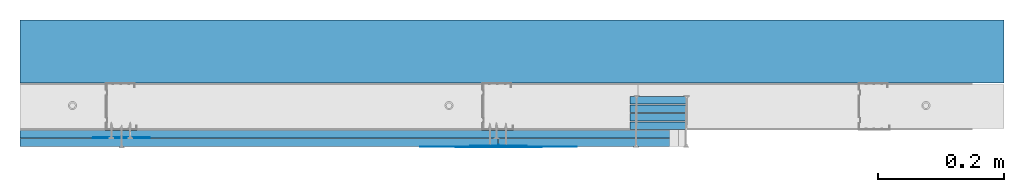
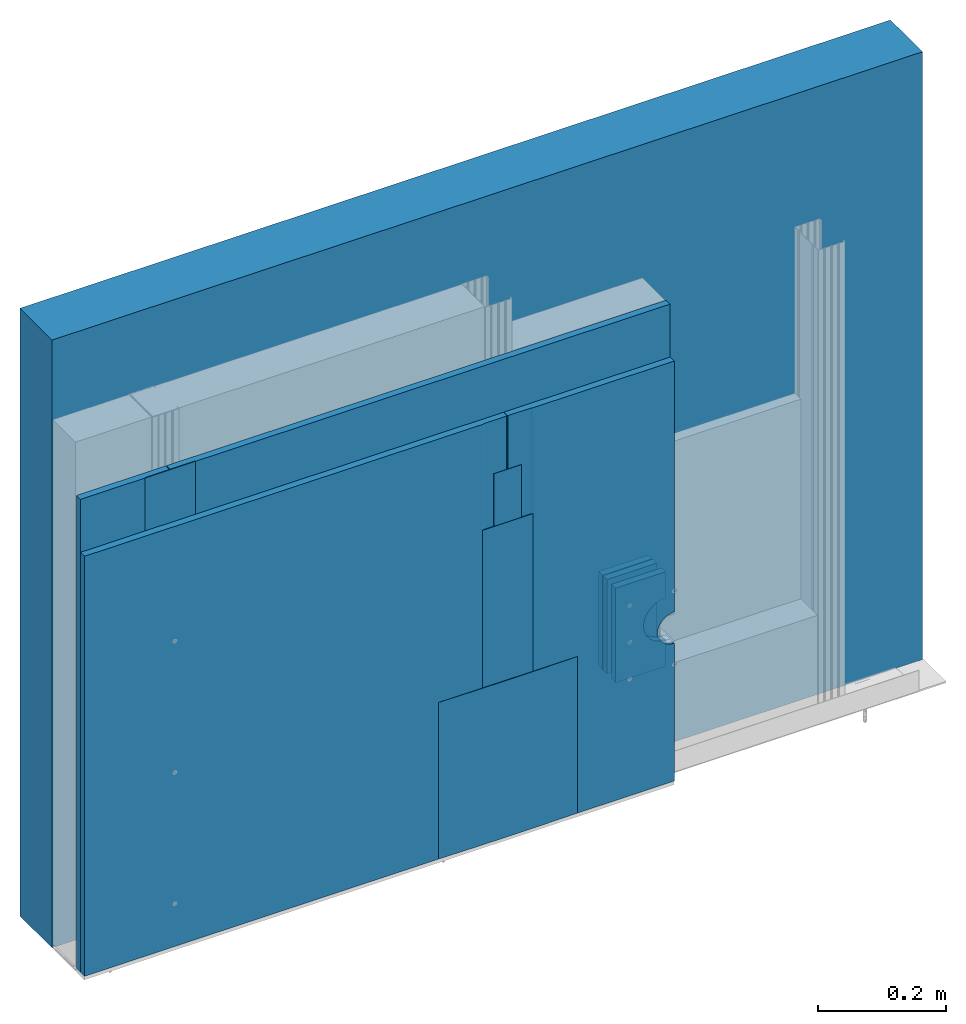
# One storey, part 3 of 32: 13 walls.
"""IFC2X3 building model written with IfcOpenShell, lengths in millimetres."""

from ifc_helpers import new_model, entity, si_unit, converted_unit, direction, frame, origin, origin_with_axes, place, context, project, spatial, faceted_brep, element, save


model = new_model("IFC2X3")

# Units and contexts
model_context = context("Model", 3, precision=1e-05, world=origin(), true_north=direction((0.0, 1.0, 0.0)))
ifc_project = project(units=[si_unit("LENGTHUNIT", "METRE", prefix="MILLI"), si_unit("AREAUNIT", "SQUARE_METRE"), si_unit("VOLUMEUNIT", "CUBIC_METRE"), converted_unit("PLANEANGLEUNIT", "DEGREE", entity("IfcPlaneAngleMeasure", 0.01745), si_unit("PLANEANGLEUNIT", "RADIAN"), dimensions=[0, 0, 0, 0, 0, 0, 0]), si_unit("SOLIDANGLEUNIT", "STERADIAN"), si_unit("MASSUNIT", "GRAM"), si_unit("TIMEUNIT", "SECOND"), si_unit("THERMODYNAMICTEMPERATUREUNIT", "DEGREE_CELSIUS"), si_unit("LUMINOUSINTENSITYUNIT", "LUMEN")], contexts=[model_context])

# Site, building, storey
site_placement = place(None, origin_with_axes())
site = spatial("IfcSite", under=ifc_project, at=site_placement, Name="Default Site", CompositionType="ELEMENT")
building_placement = place(site_placement, origin_with_axes())
building = spatial("IfcBuilding", under=site, at=building_placement, Name="Default Building", CompositionType="ELEMENT")
storey_placement = place(building_placement, origin_with_axes())
storey = spatial("IfcBuildingStorey", under=building, at=storey_placement, Name="Default Building Storey", CompositionType="ELEMENT", Elevation=0.0)

# Walls
wall_1_placement = place(storey_placement, frame((2150.097415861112, 5311.348013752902, 7.548421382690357), z_axis=(0.0, 0.0, 1.0), x_axis=(-1.0, 4.718447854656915e-16, 0.0)))
element("IfcWall", 1, at=wall_1_placement, inside=storey, Name="Taśma spoinowa RIGIPS", context=model_context, shape_type="Brep", body=[
    faceted_brep([(-712.4592163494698, 3389.356721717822, 700.7999999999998), (-712.4592163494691, 3389.856721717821, 700.7999999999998), (-762.4592163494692, 3389.856721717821, 700.7999999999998), (-762.45921634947, 3389.35672171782, 700.7999999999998), (-712.4592163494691, 3389.856721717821, 2.449996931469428), (-712.4592163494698, 3389.35672171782, 2.449996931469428), (-762.45921634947, 3389.35672171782, 2.449996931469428), (-762.4592163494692, 3389.856721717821, 2.449996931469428)], [[[0, 1, 2, 3]], [[4, 5, 6, 7]], [[5, 0, 3, 6]], [[6, 3, 2, 7]], [[7, 2, 1, 4]], [[4, 1, 0, 5]]]),
])
wall_2_placement = place(storey_placement, frame((2150.097415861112, 5311.348013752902, 7.548421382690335), z_axis=(0.0, 0.0, 1.0), x_axis=(-1.0, 4.718447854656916e-16, 0.0)))
element("IfcWall", 2, at=wall_2_placement, inside=storey, Name="Dedykowana masa szpachlowa Rigips - konstrukcyjna", context=model_context, shape_type="Brep", body=[
    faceted_brep([(-737.4838396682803, 3387.6695906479, 600.7999999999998), (-737.4592163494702, 3387.356721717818, 600.7999999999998), (-737.434593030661, 3387.6695906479, 600.7999999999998), (-737.3613293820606, 3387.974755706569, 600.7999999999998), (-737.2412293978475, 3388.264702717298, 600.7999999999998), (-737.07725033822, 3388.532292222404, 600.7999999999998), (-736.8734299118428, 3388.770935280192, 600.7999999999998), (-736.6347868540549, 3388.974755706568, 600.7999999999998), (-736.3671973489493, 3389.138734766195, 600.7999999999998), (-736.0772503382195, 3389.258834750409, 600.7999999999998), (-735.7720852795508, 3389.332098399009, 600.7999999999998), (-735.45921634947, 3389.356721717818, 600.7999999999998), (-692.4592163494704, 3389.356721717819, 600.7999999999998), (-691.4592163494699, 3390.556721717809, 600.7999999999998), (-782.4592163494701, 3390.556721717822, 600.7999999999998), (-782.4592163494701, 3389.356721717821, 600.7999999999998), (-739.4592163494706, 3389.356721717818, 600.7999999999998), (-739.1463474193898, 3389.332098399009, 600.7999999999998), (-738.8411823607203, 3389.258834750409, 600.7999999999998), (-738.5512353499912, 3389.138734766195, 600.7999999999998), (-738.2836458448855, 3388.974755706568, 600.7999999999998), (-738.0450027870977, 3388.770935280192, 600.7999999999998), (-737.8411823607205, 3388.532292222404, 600.7999999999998), (-737.6772033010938, 3388.264702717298, 600.7999999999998), (-737.55710331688, 3387.974755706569, 600.7999999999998), (-691.4592163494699, 3390.556721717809, 2.449996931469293), (-692.4592163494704, 3389.356721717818, 2.449996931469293), (-735.45921634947, 3389.356721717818, 2.449996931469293), (-735.7720852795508, 3389.332098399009, 2.449996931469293), (-736.0772503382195, 3389.258834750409, 2.449996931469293), (-736.3671973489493, 3389.138734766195, 2.449996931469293), (-736.6347868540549, 3388.974755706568, 2.449996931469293), (-736.8734299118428, 3388.770935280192, 2.449996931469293), (-737.07725033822, 3388.532292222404, 2.449996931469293), (-737.2412293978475, 3388.264702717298, 2.449996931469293), (-737.3613293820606, 3387.974755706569, 2.449996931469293), (-737.434593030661, 3387.6695906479, 2.449996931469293), (-737.4592163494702, 3387.356721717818, 2.449996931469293), (-737.4838396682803, 3387.6695906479, 2.449996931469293), (-737.55710331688, 3387.974755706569, 2.449996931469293), (-737.6772033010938, 3388.264702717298, 2.449996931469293), (-737.8411823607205, 3388.532292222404, 2.449996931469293), (-738.0450027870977, 3388.770935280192, 2.449996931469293), (-738.2836458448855, 3388.974755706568, 2.449996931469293), (-738.5512353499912, 3389.138734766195, 2.449996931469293), (-738.8411823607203, 3389.258834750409, 2.449996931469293), (-739.1463474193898, 3389.332098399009, 2.449996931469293), (-739.4592163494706, 3389.356721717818, 2.449996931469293), (-782.4592163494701, 3389.356721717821, 2.449996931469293), (-782.4592163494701, 3390.556721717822, 2.449996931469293)], [[[0, 1, 2, 3, 4, 5, 6, 7, 8, 9, 10, 11, 12, 13, 14, 15, 16, 17, 18, 19, 20, 21, 22, 23, 24]], [[25, 26, 27, 28, 29, 30, 31, 32, 33, 34, 35, 36, 37, 38, 39, 40, 41, 42, 43, 44, 45, 46, 47, 48, 49]], [[26, 12, 11, 27]], [[10, 9, 29, 28]], [[28, 27, 11, 10]], [[8, 30, 29, 9]], [[7, 6, 32, 31]], [[31, 30, 8, 7]], [[5, 4, 34, 33]], [[33, 32, 6, 5]], [[3, 35, 34, 4]], [[2, 1, 37, 36]], [[36, 35, 3, 2]], [[0, 24, 39, 38]], [[38, 37, 1, 0]], [[23, 40, 39, 24]], [[22, 21, 42, 41]], [[41, 40, 23, 22]], [[20, 19, 44, 43]], [[43, 42, 21, 20]], [[18, 45, 44, 19]], [[17, 16, 47, 46]], [[46, 45, 18, 17]], [[47, 16, 15, 48]], [[48, 15, 14, 49]], [[49, 14, 13, 25]], [[25, 13, 12, 26]]]),
])
wall_3_placement = place(storey_placement, frame((2887.556632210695, 1933.291292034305, 1059.999999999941), z_axis=(0.0, 0.0, 1.0), x_axis=(1.0, 6.389333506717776e-13, 0.0)))
element("IfcWall", 3, at=wall_3_placement, inside=storey, Name="Płyta gipsowo-kartonowa RIGIPS PRO (4PRO™)", context=model_context, shape_type="Brep", body=[
    faceted_brep([(299.5674017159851, 1.631519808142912e-10, -727.6029311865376), (299.5674017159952, -12.4999999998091, -727.6029311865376), (299.5674017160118, -12.49999999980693, -249.9999999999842), (299.5674017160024, 1.653177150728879e-10, -249.9999999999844), (299.5674017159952, -12.4999999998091, -787.6029311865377), (291.8028303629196, -12.49999999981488, -786.5807059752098), (291.8028303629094, 1.573766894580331e-10, -786.5807059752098), (299.5674017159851, 1.631519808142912e-10, -787.6029311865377), (284.5674017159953, -12.49999999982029, -783.5836933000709), (284.5674017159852, 1.519623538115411e-10, -783.5836933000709), (278.3541982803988, -12.49999999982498, -778.8161346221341), (278.3541982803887, 1.472699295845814e-10, -778.8161346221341), (273.5866396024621, -12.49999999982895, -772.6029311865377), (273.586639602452, 1.43299416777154e-10, -772.6029311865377), (270.5896269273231, -12.49999999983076, -765.3675025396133), (270.589626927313, 1.414946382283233e-10, -765.3675025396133), (269.5674017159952, -12.49999999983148, -757.6029311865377), (269.5674017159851, 1.40772726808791e-10, -757.6029311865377), (270.5896269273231, -12.49999999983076, -749.838359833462), (270.589626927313, 1.414946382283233e-10, -749.838359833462), (273.5866396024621, -12.49999999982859, -742.6029311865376), (273.586639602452, 1.436603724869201e-10, -742.6029311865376), (278.3541982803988, -12.49999999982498, -736.3897277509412), (278.3541982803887, 1.472699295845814e-10, -736.3897277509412), (284.567401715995, -12.49999999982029, -731.6221690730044), (284.5674017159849, 1.519623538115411e-10, -731.6221690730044), (291.8028303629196, -12.49999999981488, -728.6251563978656), (291.8028303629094, 1.573766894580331e-10, -728.6251563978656), (299.5674017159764, 1.620691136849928e-10, -1050.001581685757), (299.5674017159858, -12.49999999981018, -1050.001581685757), (44.99999999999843, -12.50000000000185, -249.9999999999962), (40.99999999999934, -11.50000000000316, -249.9999999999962), (0.9999999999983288, -11.50000000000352, -249.9999999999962), (0.7411809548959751, -11.46592582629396, -249.9999999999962), (0.4999999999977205, -11.3660254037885, -249.9999999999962), (0.29289321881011, -11.20710678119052, -249.9999999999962), (0.1339745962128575, -11.00000000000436, -249.9999999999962), (0.03407417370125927, -10.7588190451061, -249.9999999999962), (-2.887645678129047e-12, -10.50000000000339, -249.9999999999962), (0.0, 0.0, -249.9999999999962), (44.99999999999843, -12.50000000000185, -1050.001581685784), (40.99999999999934, -11.50000000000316, -1050.001581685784), (0.9999999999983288, -11.50000000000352, -1050.001581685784), (0.7411809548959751, -11.46592582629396, -1050.001581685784), (0.4999999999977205, -11.3660254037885, -1050.001581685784), (0.29289321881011, -11.20710678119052, -1050.001581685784), (0.1339745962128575, -11.00000000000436, -1050.001581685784), (0.03407417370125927, -10.7588190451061, -1050.001581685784), (-2.887645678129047e-12, -10.50000000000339, -1050.001581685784), (0.0, 0.0, -1050.001581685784)], [[[0, 1, 2, 3]], [[4, 5, 6, 7]], [[5, 8, 9, 6]], [[8, 10, 11, 9]], [[10, 12, 13, 11]], [[12, 14, 15, 13]], [[14, 16, 17, 15]], [[16, 18, 19, 17]], [[18, 20, 21, 19]], [[20, 22, 23, 21]], [[22, 24, 25, 23]], [[24, 26, 27, 25]], [[26, 1, 0, 27]], [[7, 28, 29, 4]], [[2, 30, 31, 32, 33, 34, 35, 36, 37, 38, 39, 3]], [[4, 29, 40, 30, 2, 1, 26, 24, 22, 20, 18, 16, 14, 12, 10, 8, 5]], [[31, 30, 40, 41]], [[32, 31, 41, 42]], [[33, 32, 42, 43]], [[34, 33, 43, 44]], [[35, 34, 44, 45]], [[36, 35, 45, 46]], [[37, 36, 46, 47]], [[38, 37, 47, 48]], [[39, 38, 48, 49]], [[0, 3, 39, 49, 28, 7, 6, 9, 11, 13, 15, 17, 19, 21, 23, 25, 27]], [[40, 29, 28, 49, 48, 47, 46, 45, 44, 43, 42, 41]]]),
])
wall_4_placement = place(storey_placement, frame((3487.124033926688, 1946.791292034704, 1159.99999999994), z_axis=(0.0, 0.0, 1.0), x_axis=(-1.0, -6.389333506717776e-13, 0.0)))
element("IfcWall", 4, at=wall_4_placement, inside=storey, Name="Płyta gipsowo-kartonowa RIGIPS PRO (4PRO™)", context=model_context, shape_type="Brep", body=[
    faceted_brep([(299.9999999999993, 12.50000000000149, -827.859585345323), (300.0000000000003, 3.609557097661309e-13, -827.859585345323), (299.9999999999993, 0.0, -249.9999999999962), (299.9999999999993, 12.50000000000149, -249.9999999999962), (303.9157857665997, 12.50000000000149, -887.3462770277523), (299.9999999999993, 12.50000000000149, -887.3462770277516), (300.0000000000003, 3.609557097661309e-13, -887.3462770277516), (303.9157857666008, 3.609557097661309e-13, -887.3462770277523), (311.4805029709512, 12.50000000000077, -885.3193171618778), (311.4805029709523, -3.609557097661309e-13, -885.3193171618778), (318.2628428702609, 12.50000000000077, -881.4035313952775), (318.262842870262, -3.609557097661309e-13, -881.4035313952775), (323.8006002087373, 12.50000000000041, -875.865774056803), (323.8006002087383, -7.219114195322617e-13, -875.865774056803), (327.7163859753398, 12.50000000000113, -869.0834341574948), (327.7163859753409, 0.0, -869.0834341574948), (329.7433458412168, 12.50000000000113, -861.518716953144), (329.7433458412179, 0.0, -861.518716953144), (329.7433458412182, 12.50000000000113, -853.6871454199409), (329.7433458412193, 0.0, -853.6871454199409), (327.7163859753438, 12.50000000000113, -846.1224282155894), (327.7163859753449, 0.0, -846.1224282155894), (323.8006002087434, 12.50000000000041, -839.3400883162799), (323.8006002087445, -7.219114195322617e-13, -839.3400883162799), (318.2628428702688, 12.50000000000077, -833.8023309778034), (318.2628428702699, -3.609557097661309e-13, -833.8023309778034), (311.4805029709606, 12.50000000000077, -829.8865452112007), (311.4805029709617, -3.609557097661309e-13, -829.8865452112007), (303.9157857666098, 12.50000000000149, -827.8595853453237), (303.9157857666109, 3.609557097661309e-13, -827.8595853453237), (299.9999999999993, 0.0, -1150.001581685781), (299.9999999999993, 12.50000000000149, -1150.001581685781), (1199.866025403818, 10.99999999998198, -249.9999999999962), (1199.965925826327, 10.75881904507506, -249.9999999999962), (1199.965925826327, 10.75881904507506, -1150.001581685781), (1199.866025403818, 10.99999999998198, -1150.001581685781), (1199.707106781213, 11.20710678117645, -249.9999999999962), (1199.707106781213, 11.20710678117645, -1150.001581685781), (1199.50000000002, 11.36602540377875, -249.9999999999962), (1199.50000000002, 11.36602540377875, -1150.001581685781), (1199.258819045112, 11.46592582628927, -249.9999999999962), (1199.258819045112, 11.46592582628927, -1150.001581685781), (1199.0, 11.49999999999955, -249.9999999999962), (1199.0, 11.49999999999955, -1150.001581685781), (1158.999999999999, 11.50000000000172, -249.9999999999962), (1158.999999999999, 11.50000000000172, -1150.001581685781), (1155.000000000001, 12.49999999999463, -249.9999999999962), (1155.000000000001, 12.49999999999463, -1150.001581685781), (1200.0, -1.082867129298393e-12, -1150.001581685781), (1200.0, -1.082867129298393e-12, -249.9999999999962), (1200.000000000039, 10.49999999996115, -249.9999999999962), (1200.000000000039, 10.49999999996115, -1150.001581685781)], [[[0, 1, 2, 3]], [[4, 5, 6, 7]], [[8, 4, 7, 9]], [[10, 8, 9, 11]], [[12, 10, 11, 13]], [[14, 12, 13, 15]], [[16, 14, 15, 17]], [[18, 16, 17, 19]], [[20, 18, 19, 21]], [[22, 20, 21, 23]], [[24, 22, 23, 25]], [[26, 24, 25, 27]], [[28, 26, 27, 29]], [[0, 28, 29, 1]], [[30, 6, 5, 31]], [[32, 33, 34, 35]], [[36, 32, 35, 37]], [[38, 36, 37, 39]], [[40, 38, 39, 41]], [[42, 40, 41, 43]], [[44, 42, 43, 45]], [[46, 44, 45, 47]], [[31, 5, 4, 8, 10, 12, 14, 16, 18, 20, 22, 24, 26, 28, 0, 3, 46, 47]], [[2, 1, 29, 27, 25, 23, 21, 19, 17, 15, 13, 11, 9, 7, 6, 30, 48, 49]], [[50, 49, 48, 51]], [[33, 50, 51, 34]], [[34, 51, 48, 30, 31, 47, 45, 43, 41, 39, 37, 35]], [[46, 3, 2, 49, 50, 33, 32, 36, 38, 40, 42, 44]]]),
])
wall_5_placement = place(storey_placement, frame((2150.097415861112, 5311.348013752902, 7.548421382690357), z_axis=(0.0, 0.0, 1.0), x_axis=(-1.0, 4.718447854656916e-16, 0.0)))
element("IfcWall", 5, at=wall_5_placement, inside=storey, Name="Dedykowana masa szpachlowa Rigips - wykończeniowa", context=model_context, shape_type="Brep", body=[
    faceted_brep([(-612.459216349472, 3390.556721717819, 2.449996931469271), (-862.459216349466, 3390.556721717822, 2.449996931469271), (-812.4612643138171, 3391.196716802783, 2.449996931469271), (-762.4602403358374, 3391.516720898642, 2.449996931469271), (-712.458192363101, 3391.516720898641, 2.449996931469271), (-662.4571683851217, 3391.19671680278, 2.449996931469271), (-762.4602403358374, 3391.516720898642, 300.8000000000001), (-812.4612643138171, 3391.196716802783, 300.8000000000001), (-862.459216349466, 3390.556721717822, 300.8000000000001), (-612.459216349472, 3390.556721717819, 300.8000000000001), (-662.4571683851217, 3391.19671680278, 300.8000000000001), (-712.458192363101, 3391.516720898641, 300.8000000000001)], [[[0, 1, 2, 3, 4, 5]], [[6, 7, 8, 9, 10, 11]], [[9, 0, 5, 10]], [[10, 5, 4, 11]], [[11, 4, 3, 6]], [[6, 3, 2, 7]], [[1, 8, 7, 2]], [[0, 9, 8, 1]]]),
])
wall_6_placement = place(storey_placement, frame((1549.664817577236, 5324.848013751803, 259.1999999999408), z_axis=(0.0, 0.0, 1.0), x_axis=(-1.0, 4.718447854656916e-16, 0.0)))
element("IfcWall", 6, at=wall_6_placement, inside=storey, Name="Dedykowana masa szpachlowa Rigips - konstrukcyjna", context=model_context, shape_type="Brep", body=[
    faceted_brep([(-737.4838396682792, 3387.669590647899, 650.800000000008), (-737.4592163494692, 3387.356721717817, 650.800000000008), (-737.4345930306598, 3387.669590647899, 650.800000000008), (-737.3613293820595, 3387.974755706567, 650.800000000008), (-737.2412293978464, 3388.264702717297, 650.800000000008), (-737.077250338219, 3388.532292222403, 650.800000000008), (-736.8734299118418, 3388.77093528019, 650.800000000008), (-736.6347868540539, 3388.974755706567, 650.800000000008), (-736.3671973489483, 3389.138734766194, 650.800000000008), (-736.0772503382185, 3389.258834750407, 650.800000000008), (-735.7720852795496, 3389.332098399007, 650.800000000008), (-735.4592163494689, 3389.356721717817, 650.800000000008), (-692.4592163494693, 3389.356721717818, 650.800000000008), (-691.4592163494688, 3390.556721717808, 650.800000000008), (-782.4592163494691, 3390.556721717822, 650.800000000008), (-782.4592163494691, 3389.356721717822, 650.800000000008), (-739.4592163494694, 3389.356721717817, 650.800000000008), (-739.1463474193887, 3389.332098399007, 650.800000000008), (-738.8411823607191, 3389.258834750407, 650.800000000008), (-738.5512353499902, 3389.138734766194, 650.800000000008), (-738.2836458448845, 3388.974755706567, 650.800000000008), (-738.0450027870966, 3388.77093528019, 650.800000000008), (-737.8411823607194, 3388.532292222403, 650.800000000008), (-737.6772033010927, 3388.264702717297, 650.800000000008), (-737.5571033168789, 3387.974755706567, 650.800000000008), (-691.4592163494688, 3390.556721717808, -249.2015816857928), (-692.4592163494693, 3389.356721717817, -249.2015816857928), (-735.4592163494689, 3389.356721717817, -249.2015816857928), (-735.7720852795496, 3389.332098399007, -249.2015816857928), (-736.0772503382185, 3389.258834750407, -249.2015816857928), (-736.3671973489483, 3389.138734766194, -249.2015816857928), (-736.6347868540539, 3388.974755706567, -249.2015816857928), (-736.8734299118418, 3388.77093528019, -249.2015816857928), (-737.077250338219, 3388.532292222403, -249.2015816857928), (-737.2412293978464, 3388.264702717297, -249.2015816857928), (-737.3613293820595, 3387.974755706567, -249.2015816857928), (-737.4345930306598, 3387.669590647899, -249.2015816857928), (-737.4592163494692, 3387.356721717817, -249.2015816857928), (-737.4838396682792, 3387.669590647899, -249.2015816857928), (-737.5571033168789, 3387.974755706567, -249.2015816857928), (-737.6772033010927, 3388.264702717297, -249.2015816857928), (-737.8411823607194, 3388.532292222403, -249.2015816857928), (-738.0450027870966, 3388.77093528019, -249.2015816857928), (-738.2836458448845, 3388.974755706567, -249.2015816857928), (-738.5512353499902, 3389.138734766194, -249.2015816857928), (-738.8411823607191, 3389.258834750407, -249.2015816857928), (-739.1463474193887, 3389.332098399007, -249.2015816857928), (-739.4592163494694, 3389.356721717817, -249.2015816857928), (-782.4592163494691, 3389.356721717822, -249.2015816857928), (-782.4592163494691, 3390.556721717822, -249.2015816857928)], [[[0, 1, 2, 3, 4, 5, 6, 7, 8, 9, 10, 11, 12, 13, 14, 15, 16, 17, 18, 19, 20, 21, 22, 23, 24]], [[25, 26, 27, 28, 29, 30, 31, 32, 33, 34, 35, 36, 37, 38, 39, 40, 41, 42, 43, 44, 45, 46, 47, 48, 49]], [[26, 12, 11, 27]], [[10, 9, 29, 28]], [[28, 27, 11, 10]], [[8, 30, 29, 9]], [[7, 6, 32, 31]], [[31, 30, 8, 7]], [[5, 4, 34, 33]], [[33, 32, 6, 5]], [[3, 35, 34, 4]], [[2, 1, 37, 36]], [[36, 35, 3, 2]], [[0, 24, 39, 38]], [[38, 37, 1, 0]], [[23, 40, 39, 24]], [[22, 21, 42, 41]], [[41, 40, 23, 22]], [[20, 19, 44, 43]], [[43, 42, 21, 20]], [[18, 45, 44, 19]], [[17, 16, 47, 46]], [[46, 45, 18, 17]], [[47, 16, 15, 48]], [[48, 15, 14, 49]], [[49, 14, 13, 25]], [[25, 13, 12, 26]]]),
])
wall_7_placement = place(storey_placement, frame((2286.124033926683, 1946.791292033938, 1159.99999999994), z_axis=(0.0, 0.0, 1.0), x_axis=(-1.0, -6.389333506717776e-13, 0.0)))
element("IfcWall", 7, at=wall_7_placement, inside=storey, Name="Płyta gipsowo-kartonowa RIGIPS PRO (4PRO™)", context=model_context, shape_type="Brep", body=[
    faceted_brep([(161.0989004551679, 12.49999999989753, -250.0000000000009), (161.0989004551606, -1.039552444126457e-10, -250.0000000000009), (161.0989004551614, -1.035942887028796e-10, -1150.001581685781), (161.0989004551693, 12.4999999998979, -1150.001581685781), (0.0, 0.0, -249.9999999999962), (44.99999999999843, 12.50000000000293, -249.9999999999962), (40.99999999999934, 11.50000000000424, -249.9999999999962), (0.9999999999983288, 11.5000000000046, -249.9999999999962), (0.7411809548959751, 11.46592582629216, -249.9999999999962), (0.4999999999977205, 11.3660254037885, -249.9999999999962), (0.2928932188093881, 11.20710678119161, -249.9999999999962), (0.1339745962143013, 11.00000000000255, -249.9999999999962), (0.03407417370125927, 10.7588190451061, -249.9999999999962), (-3.609557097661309e-12, 10.50000000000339, -249.9999999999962), (44.99999999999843, 12.50000000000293, -1150.001581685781), (40.99999999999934, 11.50000000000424, -1150.001581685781), (0.9999999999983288, 11.5000000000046, -1150.001581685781), (0.7411809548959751, 11.46592582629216, -1150.001581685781), (0.4999999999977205, 11.3660254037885, -1150.001581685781), (0.2928932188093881, 11.20710678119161, -1150.001581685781), (0.1339745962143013, 11.00000000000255, -1150.001581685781), (0.03407417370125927, 10.7588190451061, -1150.001581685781), (-3.609557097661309e-12, 10.50000000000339, -1150.001581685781), (0.0, 0.0, -1150.001581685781)], [[[0, 1, 2, 3]], [[4, 1, 0, 5, 6, 7, 8, 9, 10, 11, 12, 13]], [[0, 3, 14, 5]], [[6, 5, 14, 15]], [[7, 6, 15, 16]], [[8, 7, 16, 17]], [[9, 8, 17, 18]], [[10, 9, 18, 19]], [[11, 10, 19, 20]], [[12, 11, 20, 21]], [[13, 12, 21, 22]], [[4, 13, 22, 23]], [[23, 2, 1, 4]], [[14, 3, 2, 23, 22, 21, 20, 19, 18, 17, 16, 15]]]),
])
wall_8_placement = place(storey_placement, frame((2886.556632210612, 1933.291292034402, 1059.999999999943), z_axis=(0.0, 0.0, 1.0), x_axis=(-1.0, -6.389333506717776e-13, 0.0)))
element("IfcWall", 8, at=wall_8_placement, inside=storey, Name="Płyta gipsowo-kartonowa RIGIPS PRO (4PRO™)", context=model_context, shape_type="Brep", body=[
    faceted_brep([(761.5314987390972, 12.49999999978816, -250.0000000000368), (761.5314987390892, -2.133248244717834e-10, -250.0000000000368), (761.5314987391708, -1.176715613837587e-10, -1050.00158168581), (761.5314987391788, 12.49999999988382, -1050.00158168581), (44.99999999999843, 12.50000000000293, -1050.001581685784), (44.99999999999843, 12.50000000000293, -249.9999999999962), (40.99999999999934, 11.50000000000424, -249.9999999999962), (40.99999999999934, 11.50000000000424, -1050.001581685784), (0.9999999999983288, 11.5000000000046, -249.9999999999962), (0.9999999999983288, 11.5000000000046, -1050.001581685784), (0.7411809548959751, 11.46592582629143, -249.9999999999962), (0.7411809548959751, 11.46592582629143, -1050.001581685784), (0.4999999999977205, 11.3660254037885, -249.9999999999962), (0.4999999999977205, 11.3660254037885, -1050.001581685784), (0.29289321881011, 11.20710678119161, -249.9999999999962), (0.29289321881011, 11.20710678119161, -1050.001581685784), (0.1339745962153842, 11.00000000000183, -249.9999999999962), (0.1339745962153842, 11.00000000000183, -1050.001581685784), (0.03407417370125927, 10.75881904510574, -249.9999999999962), (0.03407417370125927, 10.75881904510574, -1050.001581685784), (-4.692424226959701e-12, 10.50000000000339, -249.9999999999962), (-4.692424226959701e-12, 10.50000000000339, -1050.001581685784), (0.0, 0.0, -249.9999999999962), (0.0, 0.0, -1050.001581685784)], [[[0, 1, 2, 3]], [[0, 3, 4, 5]], [[6, 5, 4, 7]], [[8, 6, 7, 9]], [[10, 8, 9, 11]], [[12, 10, 11, 13]], [[14, 12, 13, 15]], [[16, 14, 15, 17]], [[18, 16, 17, 19]], [[20, 18, 19, 21]], [[22, 20, 21, 23]], [[23, 2, 1, 22]], [[4, 3, 2, 23, 21, 19, 17, 15, 13, 11, 9, 7]], [[1, 0, 5, 6, 8, 10, 12, 14, 16, 18, 20, 22]]]),
])
wall_9_placement = place(storey_placement, frame((3157.124033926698, 1960.29129203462, 302.3970688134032), z_axis=(0.0, 0.0, 1.0), x_axis=(1.0, 0.0, 0.0)))
element("IfcWall", 9, at=wall_9_placement, inside=storey, Name="Płyta gipsowo-kartonowa RIGIPS PRO (4PRO™)", context=model_context, shape_type="Brep", body=[
    faceted_brep([(29.99999999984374, -12.49999999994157, 39.99999999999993), (29.99999999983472, 5.37824007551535e-11, 39.99999999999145), (30.00000000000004, 8.30198132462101e-11, 90.00000000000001), (30.0000000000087, -12.49999999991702, 90.00000000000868), (19.6472381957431, -12.50000000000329, -38.63703305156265), (29.99999999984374, -12.49999999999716, -39.99999999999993), (29.99999999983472, -1.804778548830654e-12, -40.00000000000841), (19.64723819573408, -7.941025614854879e-12, -38.63703305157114), (9.999999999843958, -12.50000000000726, -34.64101615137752), (9.999999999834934, -1.191153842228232e-11, -34.641016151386), (1.71572875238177, -12.50000000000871, -28.28427124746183), (1.715728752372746, -1.335536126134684e-11, -28.28427124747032), (-4.641016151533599, -12.50000000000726, -19.99999999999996), (-4.641016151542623, -1.191153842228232e-11, -20.00000000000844), (-8.63703305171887, -12.50000000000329, -10.35276180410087), (-8.637033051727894, -7.941025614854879e-12, -10.35276180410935), (-10.00000000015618, -12.49999999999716, 0.0), (-10.00000000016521, -1.804778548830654e-12, -8.482459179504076e-12), (-8.63703305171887, -12.49999999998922, 10.35276180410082), (-8.637033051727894, 6.136247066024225e-12, 10.35276180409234), (-4.641016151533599, -12.49999999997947, 19.99999999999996), (-4.641016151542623, 1.588205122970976e-11, 19.99999999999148), (1.71572875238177, -12.49999999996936, 28.28427124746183), (1.715728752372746, 2.598881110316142e-11, 28.28427124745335), (9.999999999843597, -12.49999999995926, 34.64101615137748), (9.999999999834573, 3.609557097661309e-11, 34.64101615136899), (19.6472381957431, -12.49999999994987, 38.63703305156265), (19.64723819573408, 4.548041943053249e-11, 38.63703305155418), (-60.00000000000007, 4.150990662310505e-11, 90.00000000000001), (-59.99999999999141, -12.49999999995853, 90.00000000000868), (30.00000000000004, -2.165734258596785e-11, -90.00000000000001), (30.0000000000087, -12.5000000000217, -89.99999999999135), (-60.00000000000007, -1.04677155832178e-10, -90.00000000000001), (-59.99999999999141, -12.50000000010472, -89.99999999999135)], [[[0, 1, 2, 3]], [[4, 5, 6, 7]], [[8, 4, 7, 9]], [[10, 8, 9, 11]], [[12, 10, 11, 13]], [[14, 12, 13, 15]], [[16, 14, 15, 17]], [[18, 16, 17, 19]], [[20, 18, 19, 21]], [[22, 20, 21, 23]], [[24, 22, 23, 25]], [[26, 24, 25, 27]], [[0, 26, 27, 1]], [[2, 28, 29, 3]], [[30, 6, 5, 31]], [[32, 30, 31, 33]], [[28, 32, 33, 29]], [[31, 5, 4, 8, 10, 12, 14, 16, 18, 20, 22, 24, 26, 0, 3, 29, 33]], [[32, 28, 2, 1, 27, 25, 23, 21, 19, 17, 15, 13, 11, 9, 7, 6, 30]]]),
])
wall_10_placement = place(storey_placement, frame((3157.124033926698, 1973.79129203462, 302.3970688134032), z_axis=(0.0, 0.0, 1.0), x_axis=(1.0, 0.0, 0.0)))
element("IfcWall", 10, at=wall_10_placement, inside=storey, Name="Płyta gipsowo-kartonowa RIGIPS PRO (4PRO™)", context=model_context, shape_type="Brep", body=[
    faceted_brep([(29.99999999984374, -12.49999999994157, 39.99999999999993), (29.99999999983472, 5.37824007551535e-11, 39.99999999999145), (30.00000000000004, 8.30198132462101e-11, 90.00000000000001), (30.0000000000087, -12.49999999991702, 90.00000000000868), (19.6472381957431, -12.50000000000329, -38.63703305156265), (29.99999999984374, -12.49999999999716, -39.99999999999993), (29.99999999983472, -1.804778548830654e-12, -40.00000000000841), (19.64723819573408, -7.941025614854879e-12, -38.63703305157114), (9.999999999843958, -12.50000000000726, -34.64101615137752), (9.999999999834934, -1.191153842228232e-11, -34.641016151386), (1.71572875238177, -12.50000000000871, -28.28427124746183), (1.715728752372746, -1.335536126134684e-11, -28.28427124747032), (-4.641016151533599, -12.50000000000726, -19.99999999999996), (-4.641016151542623, -1.191153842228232e-11, -20.00000000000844), (-8.63703305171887, -12.50000000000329, -10.35276180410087), (-8.637033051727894, -7.941025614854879e-12, -10.35276180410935), (-10.00000000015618, -12.49999999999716, 0.0), (-10.00000000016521, -1.804778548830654e-12, -8.482459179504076e-12), (-8.63703305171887, -12.49999999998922, 10.35276180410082), (-8.637033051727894, 6.136247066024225e-12, 10.35276180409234), (-4.641016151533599, -12.49999999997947, 19.99999999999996), (-4.641016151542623, 1.588205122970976e-11, 19.99999999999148), (1.71572875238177, -12.49999999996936, 28.28427124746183), (1.715728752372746, 2.598881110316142e-11, 28.28427124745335), (9.999999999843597, -12.49999999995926, 34.64101615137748), (9.999999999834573, 3.609557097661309e-11, 34.64101615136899), (19.6472381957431, -12.49999999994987, 38.63703305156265), (19.64723819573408, 4.548041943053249e-11, 38.63703305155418), (-60.00000000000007, 4.150990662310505e-11, 90.00000000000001), (-59.99999999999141, -12.49999999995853, 90.00000000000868), (30.00000000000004, -2.165734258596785e-11, -90.00000000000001), (30.0000000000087, -12.5000000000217, -89.99999999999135), (-60.00000000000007, -1.04677155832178e-10, -90.00000000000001), (-59.99999999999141, -12.50000000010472, -89.99999999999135)], [[[0, 1, 2, 3]], [[4, 5, 6, 7]], [[8, 4, 7, 9]], [[10, 8, 9, 11]], [[12, 10, 11, 13]], [[14, 12, 13, 15]], [[16, 14, 15, 17]], [[18, 16, 17, 19]], [[20, 18, 19, 21]], [[22, 20, 21, 23]], [[24, 22, 23, 25]], [[26, 24, 25, 27]], [[0, 26, 27, 1]], [[2, 28, 29, 3]], [[30, 6, 5, 31]], [[32, 30, 31, 33]], [[28, 32, 33, 29]], [[31, 5, 4, 8, 10, 12, 14, 16, 18, 20, 22, 24, 26, 0, 3, 29, 33]], [[32, 28, 2, 1, 27, 25, 23, 21, 19, 17, 15, 13, 11, 9, 7, 6, 30]]]),
])
for number, where, z_axis, x_axis in (
    (11, (3157.124033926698, 2000.79129203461, 302.3970688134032), (0.0, 0.0, 1.0), (1.0, 0.0, 0.0)),
    (12, (3157.124033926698, 1987.29129203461, 302.3970688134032), (0.0, 0.0, 1.0), (1.0, 0.0, 0.0)),
):
    element("IfcWall", number, at=place(storey_placement, frame(where, z_axis=z_axis, x_axis=x_axis)), inside=storey, Name="Płyta gipsowo-kartonowa RIGIPS PRO (4PRO™)", context=model_context, shape_type="Brep", body=[
        faceted_brep([(30.00000000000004, 8.30198132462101e-11, 90.00000000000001), (-60.00000000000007, 4.150990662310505e-11, 90.00000000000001), (-59.99999999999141, -12.49999999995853, 90.00000000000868), (30.0000000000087, -12.49999999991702, 90.00000000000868), (30.00000000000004, -2.165734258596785e-11, -90.00000000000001), (30.0000000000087, -12.5000000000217, -89.99999999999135), (-60.00000000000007, -1.04677155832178e-10, -90.00000000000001), (-59.99999999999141, -12.50000000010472, -89.99999999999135)], [[[0, 1, 2, 3]], [[4, 0, 3, 5]], [[6, 4, 5, 7]], [[1, 6, 7, 2]], [[2, 7, 5, 3]], [[6, 1, 0, 4]]]),
    ])
wall_11_placement = place(storey_placement, frame((3516.951496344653, -1287.788470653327, 6.597068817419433), z_axis=(7.62017609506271e-14, 6.858158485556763e-13, 1.0), x_axis=(1.0, 9.714451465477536e-17, -7.62017609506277e-14)))
element("IfcWall", 13, at=wall_11_placement, inside=storey, Name="ŚCIANA", context=model_context, shape_type="Brep", body=[
    faceted_brep([(-1391.926362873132, 3410.283223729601, -4.2000000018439), (176.0891218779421, 3410.2832237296, -4.200000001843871), (176.0891218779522, 3310.283223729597, -4.200000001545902), (-1391.926362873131, 3310.283223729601, -4.200000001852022), (176.0891218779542, 3310.283223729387, 1153.402931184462), (-1391.926362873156, 3310.283223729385, 1153.402931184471), (176.0891218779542, 3410.283223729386, 1153.402931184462), (-1391.926362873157, 3410.283223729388, 1153.402931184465)], [[[0, 1, 2, 3]], [[3, 2, 4, 5]], [[6, 7, 5, 4]], [[4, 2, 1, 6]], [[0, 7, 6, 1]], [[0, 3, 5, 7]]]),
])

save(model, "model.ifc")
